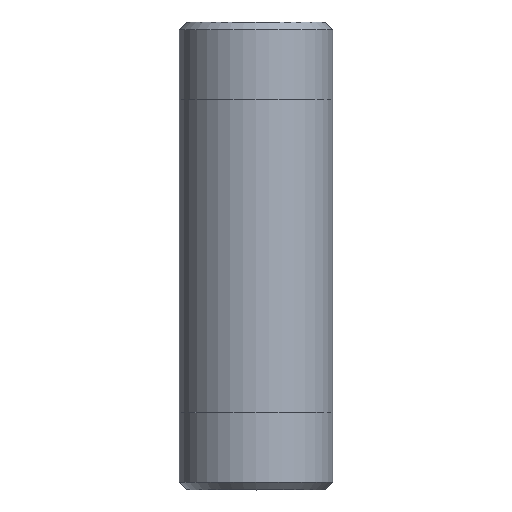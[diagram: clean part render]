
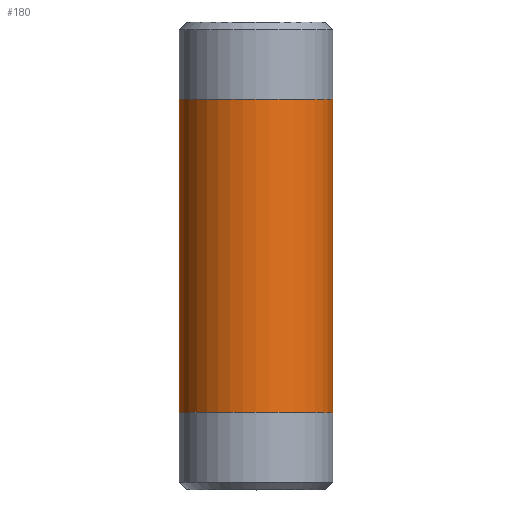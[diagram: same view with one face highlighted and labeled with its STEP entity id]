
A CAD part, top view. The second image highlights one B-rep face of the part: STEP entity #180.
In plain terms, the highlighted cylindrical face has radius 16.701 mm (diameter 33.401 mm), a full revolution.
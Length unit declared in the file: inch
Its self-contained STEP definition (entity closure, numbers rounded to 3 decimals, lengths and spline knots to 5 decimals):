
#25=CYLINDRICAL_SURFACE('',#220,0.6575);
#34=FACE_OUTER_BOUND('',#47,.T.);
#47=EDGE_LOOP('',(#155,#156,#157,#158,#159,#160));
#55=LINE('',#338,#61);
#61=VECTOR('',#283,0.6575);
#77=CIRCLE('',#218,0.6575);
#78=CIRCLE('',#219,0.6575);
#79=CIRCLE('',#221,0.6575);
#80=CIRCLE('',#222,0.6575);
#95=VERTEX_POINT('',#329);
#96=VERTEX_POINT('',#330);
#97=VERTEX_POINT('',#334);
#98=VERTEX_POINT('',#335);
#117=EDGE_CURVE('',#95,#96,#77,.T.);
#118=EDGE_CURVE('',#96,#95,#78,.T.);
#119=EDGE_CURVE('',#97,#98,#79,.T.);
#120=EDGE_CURVE('',#98,#97,#80,.T.);
#121=EDGE_CURVE('',#98,#96,#55,.T.);
#155=ORIENTED_EDGE('',*,*,#119,.F.);
#156=ORIENTED_EDGE('',*,*,#120,.F.);
#157=ORIENTED_EDGE('',*,*,#121,.T.);
#158=ORIENTED_EDGE('',*,*,#118,.T.);
#159=ORIENTED_EDGE('',*,*,#117,.T.);
#160=ORIENTED_EDGE('',*,*,#121,.F.);
#180=ADVANCED_FACE('',(#34),#25,.T.);
#218=AXIS2_PLACEMENT_3D('',#331,#273,#274);
#219=AXIS2_PLACEMENT_3D('',#332,#275,#276);
#220=AXIS2_PLACEMENT_3D('',#333,#277,#278);
#221=AXIS2_PLACEMENT_3D('',#336,#279,#280);
#222=AXIS2_PLACEMENT_3D('',#337,#281,#282);
#273=DIRECTION('center_axis',(0.,-1.,0.));
#274=DIRECTION('ref_axis',(1.,0.,0.));
#275=DIRECTION('center_axis',(0.,-1.,0.));
#276=DIRECTION('ref_axis',(1.,0.,0.));
#277=DIRECTION('center_axis',(0.,-1.,0.));
#278=DIRECTION('ref_axis',(0.,0.,-1.));
#279=DIRECTION('center_axis',(0.,-1.,0.));
#280=DIRECTION('ref_axis',(1.,0.,0.));
#281=DIRECTION('center_axis',(0.,-1.,0.));
#282=DIRECTION('ref_axis',(1.,0.,0.));
#283=DIRECTION('',(0.,1.,0.));
#329=CARTESIAN_POINT('',(0.,3.339,-0.6575));
#330=CARTESIAN_POINT('',(0.,3.339,0.6575));
#331=CARTESIAN_POINT('Origin',(0.,3.339,0.));
#332=CARTESIAN_POINT('Origin',(0.,3.339,0.));
#333=CARTESIAN_POINT('Origin',(0.,2.,0.));
#334=CARTESIAN_POINT('',(0.,0.661,-0.6575));
#335=CARTESIAN_POINT('',(0.,0.661,0.6575));
#336=CARTESIAN_POINT('Origin',(0.,0.661,0.));
#337=CARTESIAN_POINT('Origin',(0.,0.661,0.));
#338=CARTESIAN_POINT('',(0.,2.,0.6575));
